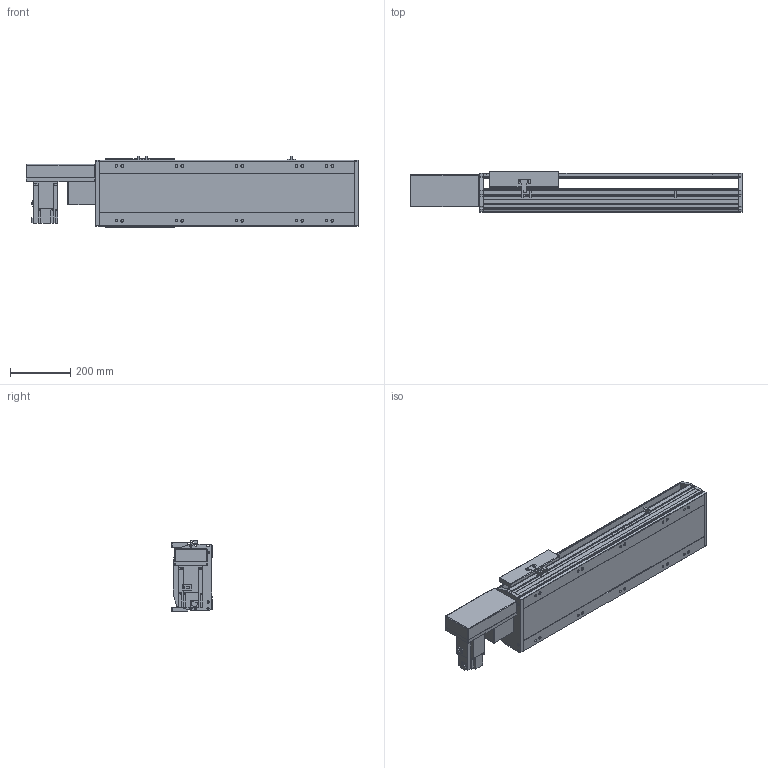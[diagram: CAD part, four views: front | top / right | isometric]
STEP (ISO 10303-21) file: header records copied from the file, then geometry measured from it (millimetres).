
FILE_DESCRIPTION(/* description */ ('STEP AP214'),/* implementation_level */ '2;1');
FILE_NAME(/* name */ 'PBS220-P40-S500-R-T75-C1-N(0)',/* time_stamp */ '2022-06-11T09:59:55+02:00',/* author */ ('License CC BY-ND 4.0'),/* organization */ ('CADENAS'),/* preprocessor_version */ 'ST-DEVELOPER v18.102',/* originating_system */ 'PARTsolutions',/* authorisation */ ' ');
FILE_SCHEMA (('AUTOMOTIVE_DESIGN {1 0 10303 214 3 1 1}'));
Length unit declared in the file: millimetre
Products named in the file (7): PBS220-P40-S500-R-T75-C1-N(0); PBS220_sensor; PBS220_plant; PBS220_sliser; T75-p1; PBS220T-R_motors; PBS220-S500()_body
Assembly tree (8 placements, depth 2):
  PBS220-P40-S500-R-T75-C1-N(0)
    PBS220_sensor  x3
    PBS220_plant
    PBS220_sliser
    T75-p1
    PBS220T-R_motors
    PBS220-S500()_body
Bounding box: 1106 x 134 x 238.5 mm (x, y, z)
Volume: 14722213.8 mm3; surface area: 1527729.6 mm2
Topology: 8 solids, 8 shells, 878 faces, 2312 edges, 1504 vertices
Faces by surface type: plane 586, cylinder 258, cone 34
Full cylindrical faces by diameter (mm): 2.013 x4, 4.5 x14, 4.917 x4, 6 x7, 6.647 x8, 8 x10, 8.376 x10, 8.5 x10, 10 x6, 14 x10, 38 x2, 40 x1, 70 x1
Entity records: 24693 total; most frequent: CARTESIAN_POINT 4294, DIRECTION 4293, ORIENTED_EDGE 3998, EDGE_CURVE 1999, AXIS2_PLACEMENT_3D 1477, VERTEX_POINT 1368, LINE 1339, VECTOR 1339
